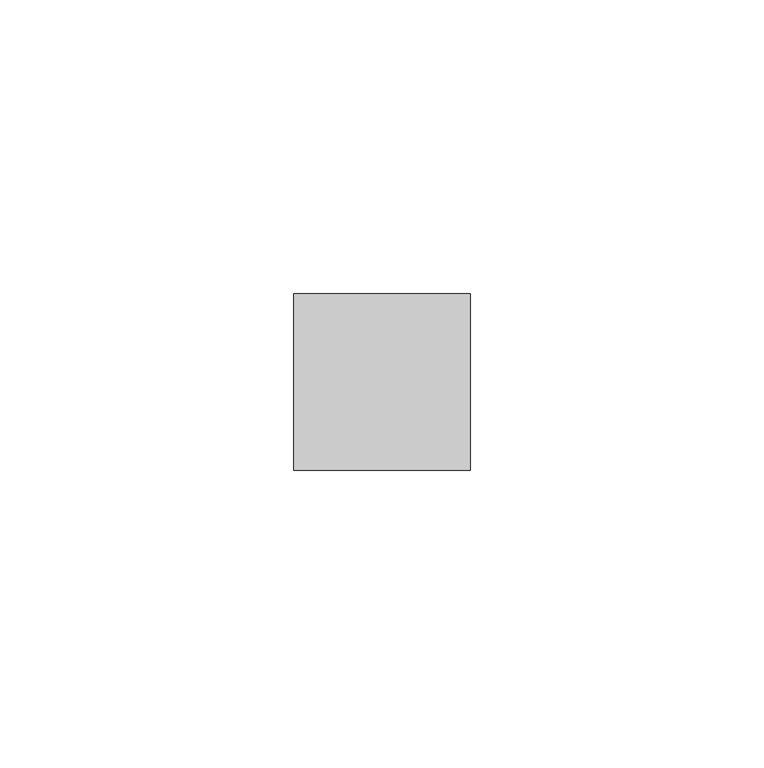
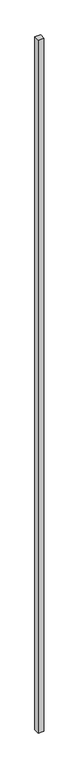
"""IFC4 building model written with IfcOpenShell, lengths in millimetres: member geometry, 矩形竖梃 : 30mm 正方形."""

from ifc_helpers import new_model, si_unit, frame, origin, place, context, project, spatial, polyline, outline, extrude, source, transform, mapped, element, save


def member_633aa1a8(model_context):
    return source(origin(), model_context, "Body", "SweptSolid", [
        extrude(outline(polyline([(0.0, 15.0), (0.0, -15.0), (-30.0, -15.0), (-30.0, 15.0), (0.0, 15.0)])), frame((0.0, 0.0, -3900.0), z_axis=(0.0, 0.0, 1.0), x_axis=(1.0, 0.0, 0.0)), (0.0, 0.0, 1.0), 3900.0),
    ])


if __name__ == "__main__":
    model = new_model("IFC4")
    model_context = context("Model", 3, world=origin())
    ifc_project = project(units=[si_unit("LENGTHUNIT", "METRE", prefix="MILLI")], contexts=[model_context])
    site = spatial("IfcSite", under=ifc_project)
    building = spatial("IfcBuilding", under=site)
    placement = place(None, origin())
    member_shape = member_633aa1a8(model_context)
    element("IfcMember", 1, ObjectType="矩形竖梃 : 30mm 正方形", at=placement, inside=building, context=model_context, shape_type="MappedRepresentation", body=[
        mapped(member_shape, transform((0.0, 0.0, 0.0), x_axis=(1.0, 0.0, 0.0), y_axis=(0.0, 1.0, 0.0), z_axis=(0.0, 0.0, 1.0))),
    ])
    save(model, "model.ifc")
